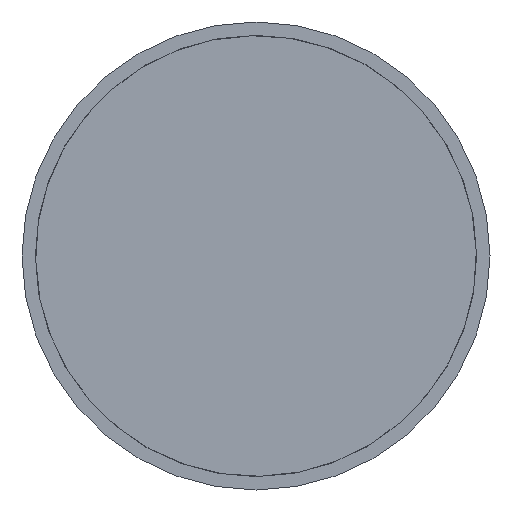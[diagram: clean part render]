
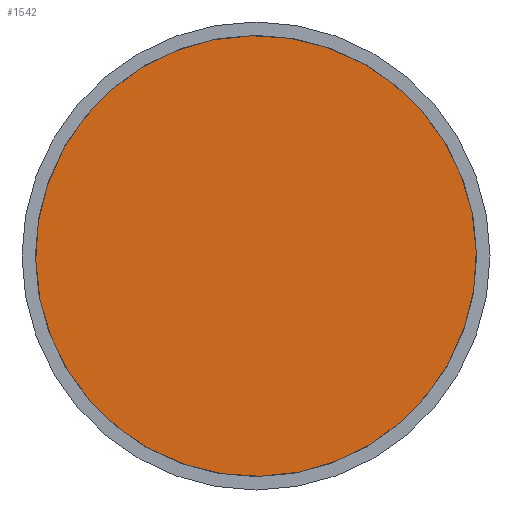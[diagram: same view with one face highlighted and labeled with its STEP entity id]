
A CAD part, front view. The second image highlights one B-rep face of the part: STEP entity #1542.
In plain terms, the highlighted planar face has unit normal (0, -1, 0).
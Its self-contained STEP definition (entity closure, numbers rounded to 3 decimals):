
#182 = FACE_OUTER_BOUND ( 'NONE', #1149, .T. ) ;
#256 = EDGE_CURVE ( 'NONE', #488, #1152, #850, .T. ) ;
#376 = AXIS2_PLACEMENT_3D ( 'NONE', #2286, #2733, #856 ) ;
#478 = CARTESIAN_POINT ( 'NONE',  ( 0., -8.466, 0. ) ) ;
#488 = VERTEX_POINT ( 'NONE', #3001 ) ;
#508 = AXIS2_PLACEMENT_3D ( 'NONE', #478, #1402, #2330 ) ;
#837 = DIRECTION ( 'NONE',  ( -0.877, 0., 0.481 ) ) ;
#850 = CIRCLE ( 'NONE', #1829, 16.95 ) ;
#856 = DIRECTION ( 'NONE',  ( 1., 0., 0. ) ) ;
#1149 = EDGE_LOOP ( 'NONE', ( #2454, #1474 ) ) ;
#1152 = VERTEX_POINT ( 'NONE', #2452 ) ;
#1326 = PLANE ( 'NONE',  #376 ) ;
#1334 = EDGE_CURVE ( 'NONE', #1152, #488, #2230, .T. ) ;
#1402 = DIRECTION ( 'NONE',  ( 0., -1., 0. ) ) ;
#1474 = ORIENTED_EDGE ( 'NONE', *, *, #256, .T. ) ;
#1542 = ADVANCED_FACE ( 'NONE', ( #182 ), #1326, .T. ) ;
#1829 = AXIS2_PLACEMENT_3D ( 'NONE', #2945, #2223, #837 ) ;
#2223 = DIRECTION ( 'NONE',  ( 0., -1., 0. ) ) ;
#2230 = CIRCLE ( 'NONE', #508, 16.95 ) ;
#2286 = CARTESIAN_POINT ( 'NONE',  ( 0., -8.466, 0. ) ) ;
#2330 = DIRECTION ( 'NONE',  ( -0.877, 0., 0.481 ) ) ;
#2452 = CARTESIAN_POINT ( 'NONE',  ( 14.863, -8.466, -8.148 ) ) ;
#2454 = ORIENTED_EDGE ( 'NONE', *, *, #1334, .T. ) ;
#2733 = DIRECTION ( 'NONE',  ( 0., -1., 0. ) ) ;
#2945 = CARTESIAN_POINT ( 'NONE',  ( 0., -8.466, 0. ) ) ;
#3001 = CARTESIAN_POINT ( 'NONE',  ( -14.863, -8.466, 8.148 ) ) ;
